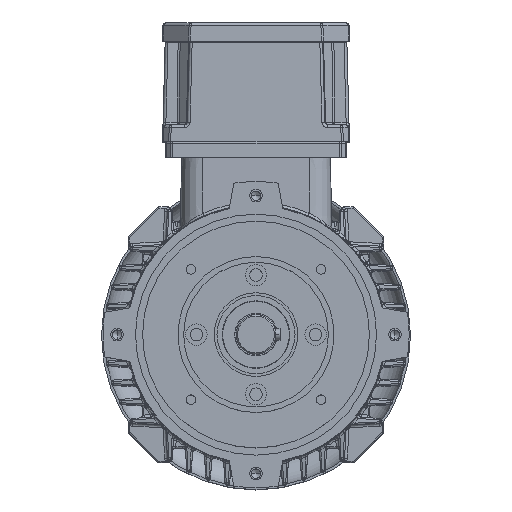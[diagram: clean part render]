
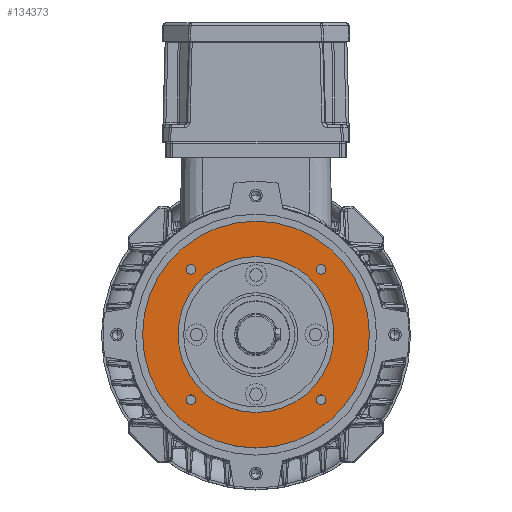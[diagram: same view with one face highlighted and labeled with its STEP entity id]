
A CAD part, top view. The second image highlights one B-rep face of the part: STEP entity #134373.
In plain terms, the highlighted planar face has unit normal (0, 0, 1).
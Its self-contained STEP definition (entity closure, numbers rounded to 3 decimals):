
#511 = VERTEX_POINT ( 'NONE', #75418 ) ;
#1094 = PLANE ( 'NONE',  #70843 ) ;
#1233 = DIRECTION ( 'NONE',  ( 1., 0., 0. ) ) ;
#3059 = CIRCLE ( 'NONE', #88053, 3.4 ) ;
#3082 = CIRCLE ( 'NONE', #127942, 3.4 ) ;
#3401 = AXIS2_PLACEMENT_3D ( 'NONE', #36205, #10560, #70853 ) ;
#3612 = CARTESIAN_POINT ( 'NONE',  ( 45.962, 45.962, 165. ) ) ;
#4369 = EDGE_LOOP ( 'NONE', ( #44864, #101461 ) ) ;
#6776 = DIRECTION ( 'NONE',  ( 0., 0., 1. ) ) ;
#10301 = VERTEX_POINT ( 'NONE', #42066 ) ;
#10560 = DIRECTION ( 'NONE',  ( 0., 0., 1. ) ) ;
#11308 = DIRECTION ( 'NONE',  ( 0., 0., 1. ) ) ;
#12436 = FACE_BOUND ( 'NONE', #100827, .T. ) ;
#13014 = EDGE_CURVE ( 'NONE', #511, #42337, #134993, .T. ) ;
#13537 = EDGE_CURVE ( 'NONE', #42337, #511, #69805, .T. ) ;
#13689 = CIRCLE ( 'NONE', #145564, 3.4 ) ;
#15968 = CARTESIAN_POINT ( 'NONE',  ( 49.362, 45.962, 165. ) ) ;
#17922 = DIRECTION ( 'NONE',  ( 0., 0., 1. ) ) ;
#19022 = CARTESIAN_POINT ( 'NONE',  ( -45.962, 45.962, 165. ) ) ;
#19901 = CARTESIAN_POINT ( 'NONE',  ( 45.962, -45.962, 165. ) ) ;
#20774 = ORIENTED_EDGE ( 'NONE', *, *, #83009, .F. ) ;
#21170 = CARTESIAN_POINT ( 'NONE',  ( 0., 0., 165. ) ) ;
#22271 = EDGE_CURVE ( 'NONE', #144387, #127755, #47395, .T. ) ;
#23840 = CIRCLE ( 'NONE', #133050, 80. ) ;
#25602 = DIRECTION ( 'NONE',  ( 1., 0., 0. ) ) ;
#26207 = DIRECTION ( 'NONE',  ( 0., 0., 1. ) ) ;
#30726 = CIRCLE ( 'NONE', #49375, 3.4 ) ;
#30765 = CARTESIAN_POINT ( 'NONE',  ( 0., 0., 165. ) ) ;
#31361 = DIRECTION ( 'NONE',  ( 1., 0., 0. ) ) ;
#31602 = FACE_BOUND ( 'NONE', #4369, .T. ) ;
#32038 = EDGE_CURVE ( 'NONE', #10301, #82534, #57188, .T. ) ;
#33424 = EDGE_CURVE ( 'NONE', #108942, #90941, #3059, .T. ) ;
#33937 = EDGE_CURVE ( 'NONE', #91706, #72811, #3082, .T. ) ;
#34971 = EDGE_CURVE ( 'NONE', #110343, #132808, #53340, .T. ) ;
#36205 = CARTESIAN_POINT ( 'NONE',  ( -45.962, 45.962, 165. ) ) ;
#36570 = ORIENTED_EDGE ( 'NONE', *, *, #33424, .F. ) ;
#36950 = CARTESIAN_POINT ( 'NONE',  ( 45.962, 45.962, 165. ) ) ;
#39053 = CARTESIAN_POINT ( 'NONE',  ( 0., 0., 165. ) ) ;
#42066 = CARTESIAN_POINT ( 'NONE',  ( 55., 0., 165. ) ) ;
#42276 = AXIS2_PLACEMENT_3D ( 'NONE', #90535, #17922, #67530 ) ;
#42337 = VERTEX_POINT ( 'NONE', #96282 ) ;
#42490 = DIRECTION ( 'NONE',  ( 1., 0., 0. ) ) ;
#44864 = ORIENTED_EDGE ( 'NONE', *, *, #84618, .F. ) ;
#46791 = EDGE_LOOP ( 'NONE', ( #155247, #20774 ) ) ;
#47395 = CIRCLE ( 'NONE', #79728, 80. ) ;
#49166 = DIRECTION ( 'NONE',  ( 0., 0., 1. ) ) ;
#49375 = AXIS2_PLACEMENT_3D ( 'NONE', #122157, #49166, #25602 ) ;
#49433 = DIRECTION ( 'NONE',  ( 0., 0., 1. ) ) ;
#49975 = CARTESIAN_POINT ( 'NONE',  ( 0., 0., 165. ) ) ;
#50180 = DIRECTION ( 'NONE',  ( 0., 0., -1. ) ) ;
#53340 = CIRCLE ( 'NONE', #3401, 3.4 ) ;
#54559 = FACE_BOUND ( 'NONE', #46791, .T. ) ;
#55220 = CIRCLE ( 'NONE', #137340, 3.4 ) ;
#55720 = EDGE_CURVE ( 'NONE', #127755, #144387, #23840, .T. ) ;
#57188 = CIRCLE ( 'NONE', #88786, 55. ) ;
#59599 = CARTESIAN_POINT ( 'NONE',  ( -49.362, -45.962, 165. ) ) ;
#61907 = ORIENTED_EDGE ( 'NONE', *, *, #32038, .F. ) ;
#67530 = DIRECTION ( 'NONE',  ( 1., 0., 0. ) ) ;
#68273 = CIRCLE ( 'NONE', #107998, 55. ) ;
#68436 = DIRECTION ( 'NONE',  ( 0., 0., 1. ) ) ;
#69422 = ORIENTED_EDGE ( 'NONE', *, *, #13014, .F. ) ;
#69805 = CIRCLE ( 'NONE', #117096, 3.4 ) ;
#70843 = AXIS2_PLACEMENT_3D ( 'NONE', #134385, #50180, #135938 ) ;
#70853 = DIRECTION ( 'NONE',  ( 1., 0., 0. ) ) ;
#72336 = CARTESIAN_POINT ( 'NONE',  ( -42.562, -45.962, 165. ) ) ;
#72811 = VERTEX_POINT ( 'NONE', #138044 ) ;
#74201 = CARTESIAN_POINT ( 'NONE',  ( 80., 0., 165. ) ) ;
#75366 = DIRECTION ( 'NONE',  ( 0., 0., 1. ) ) ;
#75418 = CARTESIAN_POINT ( 'NONE',  ( 49.362, -45.962, 165. ) ) ;
#78844 = DIRECTION ( 'NONE',  ( 0., 0., 1. ) ) ;
#79728 = AXIS2_PLACEMENT_3D ( 'NONE', #30765, #78844, #128357 ) ;
#82534 = VERTEX_POINT ( 'NONE', #109556 ) ;
#83009 = EDGE_CURVE ( 'NONE', #72811, #91706, #13689, .T. ) ;
#84618 = EDGE_CURVE ( 'NONE', #132808, #110343, #55220, .T. ) ;
#87836 = ORIENTED_EDGE ( 'NONE', *, *, #123372, .F. ) ;
#88053 = AXIS2_PLACEMENT_3D ( 'NONE', #147347, #75366, #1233 ) ;
#88786 = AXIS2_PLACEMENT_3D ( 'NONE', #39053, #26207, #113722 ) ;
#90535 = CARTESIAN_POINT ( 'NONE',  ( 45.962, -45.962, 165. ) ) ;
#90941 = VERTEX_POINT ( 'NONE', #59599 ) ;
#90974 = EDGE_CURVE ( 'NONE', #82534, #10301, #68273, .T. ) ;
#91706 = VERTEX_POINT ( 'NONE', #15968 ) ;
#96282 = CARTESIAN_POINT ( 'NONE',  ( 42.562, -45.962, 165. ) ) ;
#96534 = FACE_BOUND ( 'NONE', #141705, .T. ) ;
#98514 = DIRECTION ( 'NONE',  ( 1., 0., 0. ) ) ;
#100827 = EDGE_LOOP ( 'NONE', ( #36570, #87836 ) ) ;
#101461 = ORIENTED_EDGE ( 'NONE', *, *, #34971, .F. ) ;
#102520 = CARTESIAN_POINT ( 'NONE',  ( -42.562, 45.962, 165. ) ) ;
#106266 = ORIENTED_EDGE ( 'NONE', *, *, #90974, .F. ) ;
#106536 = CARTESIAN_POINT ( 'NONE',  ( -80., 0., 165. ) ) ;
#107998 = AXIS2_PLACEMENT_3D ( 'NONE', #49975, #49433, #98514 ) ;
#108942 = VERTEX_POINT ( 'NONE', #72336 ) ;
#109556 = CARTESIAN_POINT ( 'NONE',  ( -55., 0., 165. ) ) ;
#110343 = VERTEX_POINT ( 'NONE', #116192 ) ;
#112021 = EDGE_LOOP ( 'NONE', ( #61907, #106266 ) ) ;
#113045 = DIRECTION ( 'NONE',  ( 1., 0., 0. ) ) ;
#113661 = FACE_BOUND ( 'NONE', #112021, .T. ) ;
#113722 = DIRECTION ( 'NONE',  ( 1., 0., 0. ) ) ;
#115935 = DIRECTION ( 'NONE',  ( 1., 0., 0. ) ) ;
#116192 = CARTESIAN_POINT ( 'NONE',  ( -49.362, 45.962, 165. ) ) ;
#117096 = AXIS2_PLACEMENT_3D ( 'NONE', #19901, #68436, #115935 ) ;
#120765 = ORIENTED_EDGE ( 'NONE', *, *, #22271, .T. ) ;
#121717 = DIRECTION ( 'NONE',  ( 1., 0., 0. ) ) ;
#122157 = CARTESIAN_POINT ( 'NONE',  ( -45.962, -45.962, 165. ) ) ;
#123372 = EDGE_CURVE ( 'NONE', #90941, #108942, #30726, .T. ) ;
#125218 = ORIENTED_EDGE ( 'NONE', *, *, #13537, .F. ) ;
#127755 = VERTEX_POINT ( 'NONE', #106536 ) ;
#127942 = AXIS2_PLACEMENT_3D ( 'NONE', #3612, #136440, #113045 ) ;
#128357 = DIRECTION ( 'NONE',  ( 1., 0., 0. ) ) ;
#129765 = EDGE_LOOP ( 'NONE', ( #120765, #158015 ) ) ;
#132808 = VERTEX_POINT ( 'NONE', #102520 ) ;
#133050 = AXIS2_PLACEMENT_3D ( 'NONE', #21170, #6776, #31361 ) ;
#134373 = ADVANCED_FACE ( 'NONE', ( #31602, #12436, #96534, #54559, #113661, #157517 ), #1094, .F. ) ;
#134385 = CARTESIAN_POINT ( 'NONE',  ( 0., 55., 165. ) ) ;
#134993 = CIRCLE ( 'NONE', #42276, 3.4 ) ;
#135938 = DIRECTION ( 'NONE',  ( -1., 0., 0. ) ) ;
#136440 = DIRECTION ( 'NONE',  ( 0., 0., 1. ) ) ;
#137340 = AXIS2_PLACEMENT_3D ( 'NONE', #19022, #153940, #42490 ) ;
#138044 = CARTESIAN_POINT ( 'NONE',  ( 42.562, 45.962, 165. ) ) ;
#141705 = EDGE_LOOP ( 'NONE', ( #69422, #125218 ) ) ;
#144387 = VERTEX_POINT ( 'NONE', #74201 ) ;
#145564 = AXIS2_PLACEMENT_3D ( 'NONE', #36950, #11308, #121717 ) ;
#147347 = CARTESIAN_POINT ( 'NONE',  ( -45.962, -45.962, 165. ) ) ;
#153940 = DIRECTION ( 'NONE',  ( 0., 0., 1. ) ) ;
#155247 = ORIENTED_EDGE ( 'NONE', *, *, #33937, .F. ) ;
#157517 = FACE_OUTER_BOUND ( 'NONE', #129765, .T. ) ;
#158015 = ORIENTED_EDGE ( 'NONE', *, *, #55720, .T. ) ;
